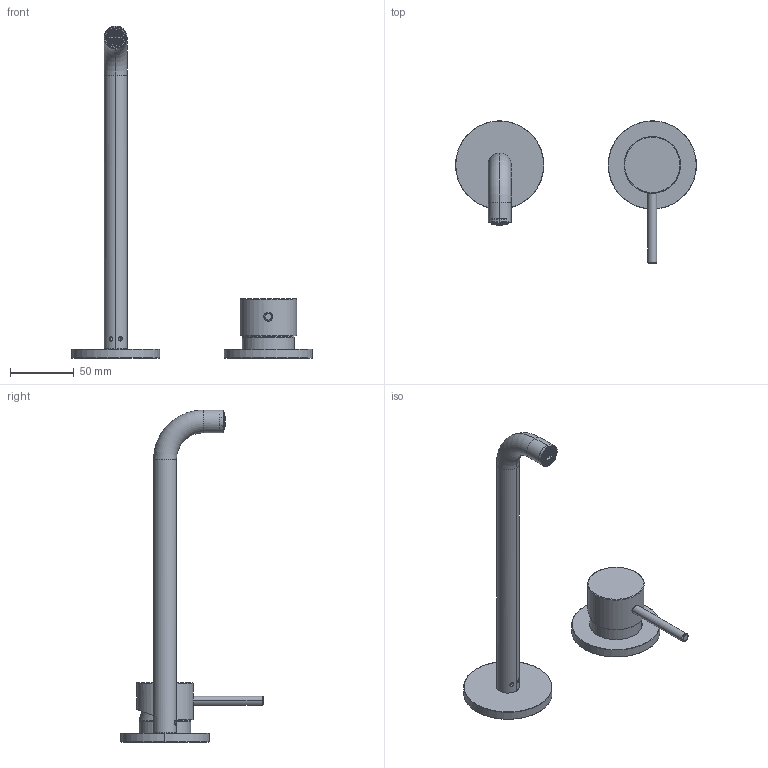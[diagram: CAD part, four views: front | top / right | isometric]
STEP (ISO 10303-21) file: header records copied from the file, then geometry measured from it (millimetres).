
FILE_DESCRIPTION((''),'2;1');
FILE_NAME('3DF_F3051WZX9','2024-01-08T11:28:53',('ivanv'),(''),'CREO PARAMETRIC BY PTC INC, 2021184','CREO PARAMETRIC BY PTC INC, 2021184','');
FILE_SCHEMA(('CONFIG_CONTROL_DESIGN'));
Products named in the file (1): 3DF_F3051WZX9
Bounding box: 189.5 x 112 x 261 mm (x, y, z)
Volume: 80543.3 mm3; surface area: 69856 mm2
Topology: 4 solids, 4 shells, 3702 faces, 10581 edges, 7009 vertices
Faces by surface type: plane 2385, torus 467, cylinder 304, extrusion 269, bspline 218, cone 49, sphere 10
Entity records: 144882 total; most frequent: CARTESIAN_POINT 54847, ORIENTED_EDGE 21146, DIRECTION 14866, EDGE_CURVE 10573, VERTEX_POINT 7009, VECTOR 5136, LINE 4867, AXIS2_PLACEMENT_3D 4865
